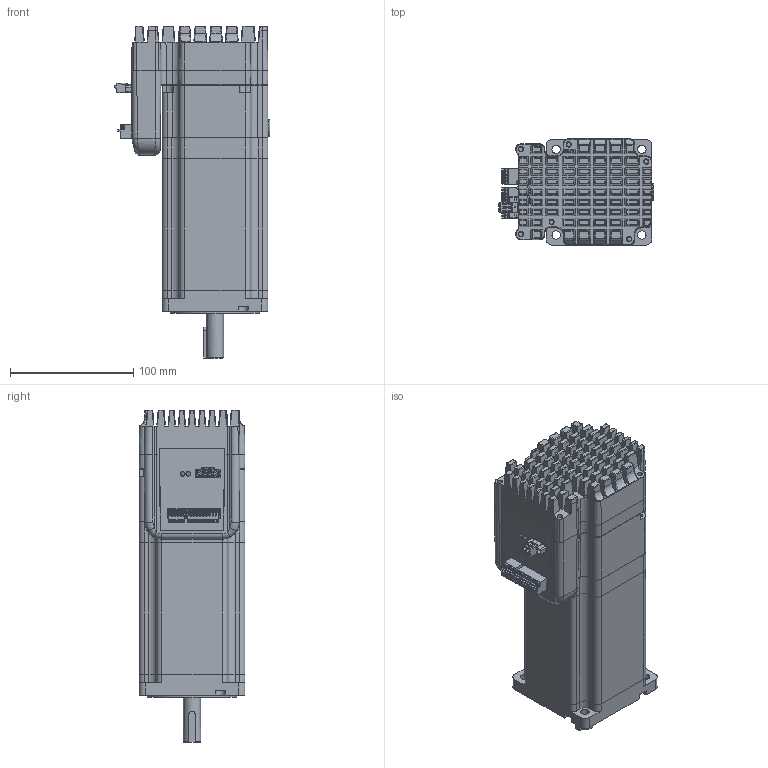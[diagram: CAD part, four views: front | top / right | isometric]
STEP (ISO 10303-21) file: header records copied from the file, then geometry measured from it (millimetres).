
FILE_DESCRIPTION(/* description */ (''),/* implementation_level */ '2;1');
FILE_NAME(/* name */ '_model3.stp',/* time_stamp */ '2025-10-09T10:11:14+08:00',/* author */ (''),/* organization */ (''),/* preprocessor_version */ 'ST-DEVELOPER v16',/* originating_system */ 'SIEMENS PLM Software NX 10.0',/* authorisation */ '');
FILE_SCHEMA (('AUTOMOTIVE_DESIGN { 1 0 10303 214 3 1 1 1 }'));
Products named in the file (1): jish2908E68Eu9nw
Bounding box: 126.3 x 86 x 269.58 mm (x, y, z)
Volume: 1354789 mm3; surface area: 290580.6 mm2
Topology: 81 solids, 183 shells, 6640 faces, 18209 edges, 11814 vertices
Faces by surface type: plane 4646, cylinder 1427, sphere 292, cone 135, bspline 118, torus 22
Full cylindrical faces by diameter (mm): 0.457 x5, 1 x8, 1.2 x15, 1.5 x15, 1.6 x27, 1.75 x2, 2 x4, 2.5 x10, 2.95 x2, 3 x6, 3.5 x10, 3.75 x2, 3.8 x10, 3.9 x2, 4.3 x6, 4.4 x4, 6.8 x4, 9.468 x1, 10 x1, 13.7 x1, 14 x2, 17 x2, 18 x1, 30 x1, 58.5 x1, 73 x1, 80 x1
Entity records: 211663 total; most frequent: CARTESIAN_POINT 48736, ORIENTED_EDGE 33286, DIRECTION 31309, EDGE_CURVE 17708, LINE 12771, VECTOR 12771, VERTEX_POINT 11773, AXIS2_PLACEMENT_3D 9269
